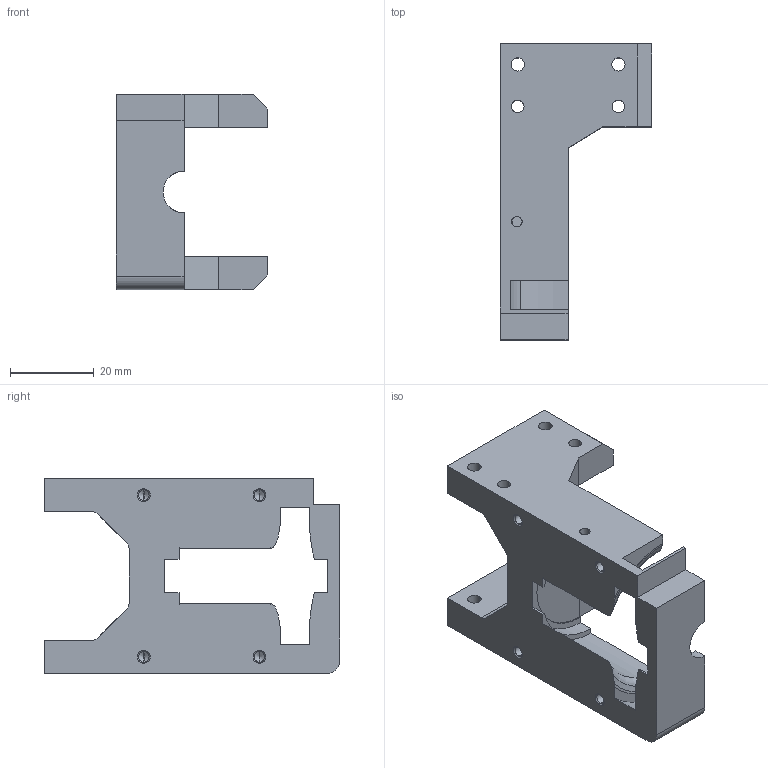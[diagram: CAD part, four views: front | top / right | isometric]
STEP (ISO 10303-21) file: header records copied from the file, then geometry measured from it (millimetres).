
FILE_DESCRIPTION (( 'STEP AP214' ), '1' );
FILE_NAME ('扻豵鵨 齟.STEP', '2019-03-23T06:57:23', ( '' ), ( '' ), 'SwSTEP 2.0', 'SolidWorks 2018', '' );
FILE_SCHEMA (( 'AUTOMOTIVE_DESIGN' ));
Length unit declared in the file: millimetre
Products named in the file (1): 扻豵鵨 齟
Bounding box: 36.2 x 70.61 x 46.6 mm (x, y, z)
Volume: 28601.7 mm3; surface area: 14072.4 mm2
Topology: 1 solids, 1 shells, 148 faces, 402 edges, 250 vertices
Faces by surface type: cylinder 64, plane 44, cone 28, torus 12
Entity records: 4910 total; most frequent: CARTESIAN_POINT 937, DIRECTION 810, ORIENTED_EDGE 772, EDGE_CURVE 386, AXIS2_PLACEMENT_3D 301, VERTEX_POINT 250, VECTOR 208, LINE 208
